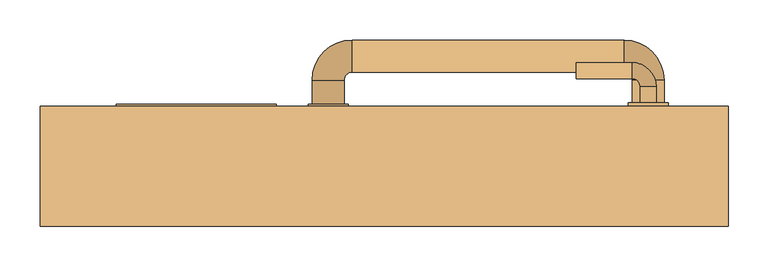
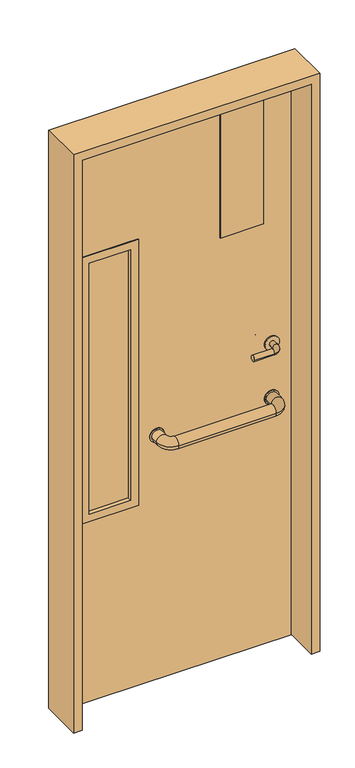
"""IFC4 building model written with IfcOpenShell, lengths in millimetres: door geometry, Porta area administrativa : Porta area administrativa."""

from ifc_helpers import new_model, si_unit, point, frame, frame_2d, origin, place, context, project, spatial, polyline, circle_curve, ellipse_curve, trimmed, segment, composite_curve, outline, extrude, faceted_brep, source, transform, mapped, element, save
from ifc_brep_helpers import plane_surface, cylinder_surface, revolved_surface, advanced_brep


def door_7c62873f(model_context):
    return source(origin(), model_context, "Body", "SolidModel", [
        extrude(outline(composite_curve([segment(trimmed(circle_curve(frame_2d((900.0, -70.0)), 25.0), [point((900.0, -95.0))], [point((900.0, -45.0))], False, "CARTESIAN"), True, "CONTINUOUS"), segment(trimmed(circle_curve(frame_2d((900.0, -70.0)), 25.0), [point((900.0, -45.0))], [point((900.0, -95.0))], False, "CARTESIAN"), True, "CONTINUOUS")], self_intersect=False)), frame((0.0, 75.0, 0.0), z_axis=(0.0, 1.0, 0.0), x_axis=(0.0, 0.0, 1.0)), (0.0, 0.0, 1.0), 3.0),
        extrude(outline(composite_curve([segment(trimmed(circle_curve(frame_2d((900.0, 330.0)), 25.0), [point((900.0, 305.0))], [point((900.0, 355.0))], False, "CARTESIAN"), True, "CONTINUOUS"), segment(trimmed(circle_curve(frame_2d((900.0, 330.0)), 25.0), [point((900.0, 355.0))], [point((900.0, 305.0))], False, "CARTESIAN"), True, "CONTINUOUS")], self_intersect=False)), frame((0.0, 75.0, 0.0), z_axis=(0.0, 1.0, 0.0), x_axis=(0.0, 0.0, 1.0)), (0.0, 0.0, 1.0), 3.0),
        advanced_brep(
        [(310.0, 78.0, 900.0), (350.0, 78.0, 900.0), (350.0, 108.0, 900.0), (310.0, 108.0, 900.0), (300.0, 158.0, 900.0), (300.0, 118.0, 900.0), (-40.0, 158.0, 900.0), (-40.0, 118.0, 900.0), (-90.0, 108.0, 900.0), (-50.0, 108.0, 900.0), (-50.0, 78.0, 900.0), (-90.0, 78.0, 900.0)],
        [
            (0, 1, circle_curve(frame((330.0, 78.0, 900.0), z_axis=(0.0, -1.0, 0.0), x_axis=(1.0, 0.0, 0.0)), 20.0)),
            (1, 0, circle_curve(frame((330.0, 78.0, 900.0), z_axis=(0.0, -1.0, 0.0), x_axis=(1.0, 0.0, 0.0)), 20.0)),
            (1, 2),
            (2, 3, circle_curve(frame((330.0, 108.0, 900.0), z_axis=(0.0, -1.0, 0.0), x_axis=(1.0, 0.0, 0.0)), 20.0)),
            (3, 0),
            (3, 2, circle_curve(frame((330.0, 108.0, 900.0), z_axis=(0.0, -1.0, 0.0), x_axis=(1.0, 0.0, 0.0)), 20.0)),
            (4, 5, circle_curve(frame((300.0, 138.0, 900.0), z_axis=(1.0, 0.0, 0.0), x_axis=(0.0, 1.0, 0.0)), 20.0)),
            (5, 3, circle_curve(frame((300.0, 108.0, 900.0), z_axis=(0.0, 0.0, -1.0), x_axis=(1.0, 0.0, 0.0)), 10.0)),
            (2, 4, circle_curve(frame((300.0, 108.0, 900.0), z_axis=(0.0, 0.0, 1.0), x_axis=(1.0, 0.0, 0.0)), 50.0)),
            (5, 4, circle_curve(frame((300.0, 138.0, 900.0), z_axis=(1.0, 0.0, 0.0), x_axis=(0.0, 1.0, 0.0)), 20.0)),
            (4, 6),
            (6, 7, circle_curve(frame((-40.0, 138.0, 900.0), z_axis=(1.0, 0.0, 0.0), x_axis=(0.0, 1.0, 0.0)), 20.0)),
            (7, 5),
            (7, 6, circle_curve(frame((-40.0, 138.0, 900.0), z_axis=(1.0, 0.0, 0.0), x_axis=(0.0, 1.0, 0.0)), 20.0)),
            (8, 9, circle_curve(frame((-70.0, 108.0, 900.0), z_axis=(0.0, 1.0, 0.0), x_axis=(-1.0, 0.0, 0.0)), 20.0)),
            (9, 7, circle_curve(frame((-40.0, 108.0, 900.0), z_axis=(0.0, 0.0, -1.0), x_axis=(0.0, 1.0, 0.0)), 10.0)),
            (6, 8, circle_curve(frame((-40.0, 108.0, 900.0), z_axis=(0.0, 0.0, 1.0), x_axis=(0.0, 1.0, 0.0)), 50.0)),
            (9, 8, circle_curve(frame((-70.0, 108.0, 900.0), z_axis=(0.0, 1.0, 0.0), x_axis=(-1.0, 0.0, 0.0)), 20.0)),
            (10, 11, circle_curve(frame((-70.0, 78.0, 900.0), z_axis=(0.0, -1.0, 0.0), x_axis=(-1.0, 0.0, 0.0)), 20.0)),
            (11, 10, circle_curve(frame((-70.0, 78.0, 900.0), z_axis=(0.0, -1.0, 0.0), x_axis=(-1.0, 0.0, 0.0)), 20.0)),
            (8, 11),
            (10, 9),
        ],
        [
            plane_surface(frame((330.0, 78.0, 900.0), z_axis=(0.0, -1.0, 0.0), x_axis=(0.0, 0.0, 1.0))),
            cylinder_surface(frame((330.0, 78.0, 900.0), z_axis=(0.0, -1.0, 0.0), x_axis=(1.0, 0.0, 0.0)), 20.0),
            revolved_surface(trimmed(ellipse_curve(frame((330.0, 108.0, 900.0), z_axis=(0.0, 1.0, 0.0), x_axis=(1.0, 0.0, 0.0)), 20.0, 20.0), [point((310.0, 108.0, 900.0))], [point((350.0, 108.0, 900.0))], True, "CARTESIAN"), (300.0, 108.0, 900.0), (0.0, 0.0, -1.0)),
            revolved_surface(trimmed(ellipse_curve(frame((330.0, 108.0, 900.0), z_axis=(0.0, 1.0, 0.0), x_axis=(1.0, 0.0, 0.0)), 20.0, 20.0), [point((350.0, 108.0, 900.0))], [point((310.0, 108.0, 900.0))], True, "CARTESIAN"), (300.0, 108.0, 900.0), (0.0, 0.0, -1.0)),
            cylinder_surface(frame((300.0, 138.0, 900.0), z_axis=(1.0, 0.0, 0.0), x_axis=(0.0, 1.0, 0.0)), 20.0),
            revolved_surface(trimmed(ellipse_curve(frame((-40.0, 138.0, 900.0), z_axis=(-1.0, 0.0, 0.0), x_axis=(0.0, 1.0, 0.0)), 20.0, 20.0), [point((-40.0, 118.0, 900.0))], [point((-40.0, 158.0, 900.0))], True, "CARTESIAN"), (-40.0, 108.0, 900.0), (0.0, 0.0, -1.0)),
            revolved_surface(trimmed(ellipse_curve(frame((-40.0, 138.0, 900.0), z_axis=(-1.0, 0.0, 0.0), x_axis=(0.0, 1.0, 0.0)), 20.0, 20.0), [point((-40.0, 158.0, 900.0))], [point((-40.0, 118.0, 900.0))], True, "CARTESIAN"), (-40.0, 108.0, 900.0), (0.0, 0.0, -1.0)),
            plane_surface(frame((-70.0, 78.0, 900.0), z_axis=(0.0, -1.0, 0.0), x_axis=(0.0, 0.0, 1.0))),
            cylinder_surface(frame((-70.0, 108.0, 900.0), z_axis=(0.0, 1.0, 0.0), x_axis=(-1.0, 0.0, 0.0)), 20.0),
        ],
        [
            (0, [[1, 2]]),
            (1, [[3, 4, 5, -2]]),
            (1, [[-5, 6, -3, -1]]),
            (2, [[7, 8, -4, 9]]),
            (3, [[10, -9, -6, -8]]),
            (4, [[11, 12, 13, -7]]),
            (4, [[-13, 14, -11, -10]]),
            (5, [[15, 16, -12, 17]]),
            (6, [[18, -17, -14, -16]]),
            (7, [[19, 20]]),
            (8, [[21, -19, 22, -15]]),
            (8, [[-22, -20, -21, -18]]),
        ],
    ),
        extrude(outline(composite_curve([segment(trimmed(circle_curve(frame_2d((900.0, -70.0)), 25.0), [point((900.0, -95.0))], [point((900.0, -45.0))], False, "CARTESIAN"), True, "CONTINUOUS"), segment(trimmed(circle_curve(frame_2d((900.0, -70.0)), 25.0), [point((900.0, -45.0))], [point((900.0, -95.0))], False, "CARTESIAN"), True, "CONTINUOUS")], self_intersect=False)), frame((0.0, 42.0, 0.0), z_axis=(0.0, 1.0, 0.0), x_axis=(0.0, 0.0, 1.0)), (0.0, 0.0, 1.0), 3.0),
        extrude(outline(composite_curve([segment(trimmed(circle_curve(frame_2d((900.0, 330.0)), 25.0), [point((900.0, 305.0))], [point((900.0, 355.0))], False, "CARTESIAN"), True, "CONTINUOUS"), segment(trimmed(circle_curve(frame_2d((900.0, 330.0)), 25.0), [point((900.0, 355.0))], [point((900.0, 305.0))], False, "CARTESIAN"), True, "CONTINUOUS")], self_intersect=False)), frame((0.0, 42.0, 0.0), z_axis=(0.0, 1.0, 0.0), x_axis=(0.0, 0.0, 1.0)), (0.0, 0.0, 1.0), 3.0),
        advanced_brep(
        [(310.0, 42.0, 900.0), (350.0, 42.0, 900.0), (310.0, 12.0, 900.0), (350.0, 12.0, 900.0), (300.0, -38.0, 900.0), (300.0, 2.0, 900.0), (-40.0, 2.0, 900.0), (-40.0, -38.0, 900.0), (-90.0, 12.0, 900.0), (-50.0, 12.0, 900.0), (-50.0, 42.0, 900.0), (-90.0, 42.0, 900.0)],
        [
            (0, 1, circle_curve(frame((330.0, 42.0, 900.0), z_axis=(0.0, 1.0, 0.0), x_axis=(1.0, 0.0, 0.0)), 20.0)),
            (1, 0, circle_curve(frame((330.0, 42.0, 900.0), z_axis=(0.0, 1.0, 0.0), x_axis=(1.0, 0.0, 0.0)), 20.0)),
            (0, 2),
            (2, 3, circle_curve(frame((330.0, 12.0, 900.0), z_axis=(0.0, 1.0, 0.0), x_axis=(1.0, 0.0, 0.0)), 20.0)),
            (3, 1),
            (3, 2, circle_curve(frame((330.0, 12.0, 900.0), z_axis=(0.0, 1.0, 0.0), x_axis=(1.0, 0.0, 0.0)), 20.0)),
            (4, 3, circle_curve(frame((300.0, 12.0, 900.0), z_axis=(0.0, 0.0, 1.0), x_axis=(1.0, 0.0, 0.0)), 50.0)),
            (2, 5, circle_curve(frame((300.0, 12.0, 900.0), z_axis=(0.0, 0.0, -1.0), x_axis=(1.0, 0.0, 0.0)), 10.0)),
            (5, 4, circle_curve(frame((300.0, -18.0, 900.0), z_axis=(1.0, 0.0, 0.0), x_axis=(0.0, -1.0, 0.0)), 20.0)),
            (4, 5, circle_curve(frame((300.0, -18.0, 900.0), z_axis=(1.0, 0.0, 0.0), x_axis=(0.0, -1.0, 0.0)), 20.0)),
            (5, 6),
            (6, 7, circle_curve(frame((-40.0, -18.0, 900.0), z_axis=(1.0, 0.0, 0.0), x_axis=(0.0, -1.0, 0.0)), 20.0)),
            (7, 4),
            (7, 6, circle_curve(frame((-40.0, -18.0, 900.0), z_axis=(1.0, 0.0, 0.0), x_axis=(0.0, -1.0, 0.0)), 20.0)),
            (8, 7, circle_curve(frame((-40.0, 12.0, 900.0), z_axis=(0.0, 0.0, 1.0), x_axis=(0.0, -1.0, 0.0)), 50.0)),
            (6, 9, circle_curve(frame((-40.0, 12.0, 900.0), z_axis=(0.0, 0.0, -1.0), x_axis=(0.0, -1.0, 0.0)), 10.0)),
            (9, 8, circle_curve(frame((-70.0, 12.0, 900.0), z_axis=(0.0, -1.0, 0.0), x_axis=(-1.0, 0.0, 0.0)), 20.0)),
            (8, 9, circle_curve(frame((-70.0, 12.0, 900.0), z_axis=(0.0, -1.0, 0.0), x_axis=(-1.0, 0.0, 0.0)), 20.0)),
            (10, 11, circle_curve(frame((-70.0, 42.0, 900.0), z_axis=(0.0, 1.0, 0.0), x_axis=(-1.0, 0.0, 0.0)), 20.0)),
            (11, 10, circle_curve(frame((-70.0, 42.0, 900.0), z_axis=(0.0, 1.0, 0.0), x_axis=(-1.0, 0.0, 0.0)), 20.0)),
            (9, 10),
            (11, 8),
        ],
        [
            plane_surface(frame((330.0, 42.0, 900.0), z_axis=(0.0, 1.0, 0.0), x_axis=(0.0, 0.0, 1.0))),
            cylinder_surface(frame((330.0, 42.0, 900.0), z_axis=(0.0, 1.0, 0.0), x_axis=(1.0, 0.0, 0.0)), 20.0),
            revolved_surface(trimmed(ellipse_curve(frame((330.0, 12.0, 900.0), z_axis=(0.0, 1.0, 0.0), x_axis=(1.0, 0.0, 0.0)), 20.0, 20.0), [point((310.0, 12.0, 900.0))], [point((350.0, 12.0, 900.0))], True, "CARTESIAN"), (300.0, 12.0, 900.0), (0.0, 0.0, -1.0)),
            revolved_surface(trimmed(ellipse_curve(frame((330.0, 12.0, 900.0), z_axis=(0.0, 1.0, 0.0), x_axis=(1.0, 0.0, 0.0)), 20.0, 20.0), [point((350.0, 12.0, 900.0))], [point((310.0, 12.0, 900.0))], True, "CARTESIAN"), (300.0, 12.0, 900.0), (0.0, 0.0, -1.0)),
            cylinder_surface(frame((300.0, -18.0, 900.0), z_axis=(1.0, 0.0, 0.0), x_axis=(0.0, -1.0, 0.0)), 20.0),
            revolved_surface(trimmed(ellipse_curve(frame((-40.0, -18.0, 900.0), z_axis=(1.0, 0.0, 0.0), x_axis=(0.0, -1.0, 0.0)), 20.0, 20.0), [point((-40.0, 2.0, 900.0))], [point((-40.0, -38.0, 900.0))], True, "CARTESIAN"), (-40.0, 12.0, 900.0), (0.0, 0.0, -1.0)),
            revolved_surface(trimmed(ellipse_curve(frame((-40.0, -18.0, 900.0), z_axis=(1.0, 0.0, 0.0), x_axis=(0.0, -1.0, 0.0)), 20.0, 20.0), [point((-40.0, -38.0, 900.0))], [point((-40.0, 2.0, 900.0))], True, "CARTESIAN"), (-40.0, 12.0, 900.0), (0.0, 0.0, -1.0)),
            plane_surface(frame((-70.0, 42.0, 900.0), z_axis=(0.0, 1.0, 0.0), x_axis=(0.0, 0.0, 1.0))),
            cylinder_surface(frame((-70.0, 12.0, 900.0), z_axis=(0.0, -1.0, 0.0), x_axis=(-1.0, 0.0, 0.0)), 20.0),
        ],
        [
            (0, [[1, 2]]),
            (1, [[-1, 3, 4, 5]]),
            (1, [[-2, -5, 6, -3]]),
            (2, [[7, -4, 8, 9]]),
            (3, [[-8, -6, -7, 10]]),
            (4, [[-9, 11, 12, 13]]),
            (4, [[-10, -13, 14, -11]]),
            (5, [[15, -12, 16, 17]]),
            (6, [[-16, -14, -15, 18]]),
            (7, [[19, 20]]),
            (8, [[-17, 21, -20, 22]]),
            (8, [[-18, -22, -19, -21]]),
        ],
    ),
        extrude(outline(composite_curve([segment(trimmed(circle_curve(frame_2d((1100.0, 330.0)), 25.0), [point((1100.0, 305.0))], [point((1100.0, 355.0))], False, "CARTESIAN"), True, "CONTINUOUS"), segment(trimmed(circle_curve(frame_2d((1100.0, 330.0)), 25.0), [point((1100.0, 355.0))], [point((1100.0, 305.0))], False, "CARTESIAN"), True, "CONTINUOUS")], self_intersect=False)), frame((0.0, 75.0, 0.0), z_axis=(0.0, 1.0, 0.0), x_axis=(0.0, 0.0, 1.0)), (0.0, 0.0, 1.0), 5.0),
        advanced_brep(
        [(320.0, 80.0, 1100.0), (340.0, 80.0, 1100.0), (340.0, 100.0, 1100.0), (320.0, 100.0, 1100.0), (310.0, 130.0, 1100.0), (310.0, 110.0, 1100.0), (240.0, 110.0, 1100.0), (240.0, 130.0, 1100.0)],
        [
            (0, 1, circle_curve(frame((330.0, 80.0, 1100.0), z_axis=(0.0, -1.0, 0.0), x_axis=(1.0, 0.0, 0.0)), 10.0)),
            (1, 0, circle_curve(frame((330.0, 80.0, 1100.0), z_axis=(0.0, -1.0, 0.0), x_axis=(1.0, 0.0, 0.0)), 10.0)),
            (1, 2),
            (2, 3, circle_curve(frame((330.0, 100.0, 1100.0), z_axis=(0.0, -1.0, 0.0), x_axis=(1.0, 0.0, 0.0)), 10.0)),
            (3, 0),
            (3, 2, circle_curve(frame((330.0, 100.0, 1100.0), z_axis=(0.0, -1.0, 0.0), x_axis=(1.0, 0.0, 0.0)), 10.0)),
            (4, 5, circle_curve(frame((310.0, 120.0, 1100.0), z_axis=(1.0, 0.0, 0.0), x_axis=(0.0, 1.0, 0.0)), 10.0)),
            (5, 3, circle_curve(frame((310.0, 100.0, 1100.0), z_axis=(0.0, 0.0, -1.0), x_axis=(1.0, 0.0, 0.0)), 10.0)),
            (2, 4, circle_curve(frame((310.0, 100.0, 1100.0), z_axis=(0.0, 0.0, 1.0), x_axis=(1.0, 0.0, 0.0)), 30.0)),
            (5, 4, circle_curve(frame((310.0, 120.0, 1100.0), z_axis=(1.0, 0.0, 0.0), x_axis=(0.0, 1.0, 0.0)), 10.0)),
            (6, 7, circle_curve(frame((240.0, 120.0, 1100.0), z_axis=(-1.0, 0.0, 0.0), x_axis=(0.0, 1.0, 0.0)), 10.0)),
            (7, 6, circle_curve(frame((240.0, 120.0, 1100.0), z_axis=(-1.0, 0.0, 0.0), x_axis=(0.0, 1.0, 0.0)), 10.0)),
            (4, 7),
            (6, 5),
        ],
        [
            plane_surface(frame((330.0, 80.0, 1100.0), z_axis=(0.0, -1.0, 0.0), x_axis=(0.0, 0.0, 1.0))),
            cylinder_surface(frame((330.0, 80.0, 1100.0), z_axis=(0.0, -1.0, 0.0), x_axis=(1.0, 0.0, 0.0)), 10.0),
            revolved_surface(trimmed(ellipse_curve(frame((330.0, 100.0, 1100.0), z_axis=(0.0, 1.0, 0.0), x_axis=(1.0, 0.0, 0.0)), 10.0, 10.0), [point((320.0, 100.0, 1100.0))], [point((340.0, 100.0, 1100.0))], True, "CARTESIAN"), (310.0, 100.0, 1100.0), (0.0, 0.0, -1.0)),
            revolved_surface(trimmed(ellipse_curve(frame((330.0, 100.0, 1100.0), z_axis=(0.0, 1.0, 0.0), x_axis=(1.0, 0.0, 0.0)), 10.0, 10.0), [point((340.0, 100.0, 1100.0))], [point((320.0, 100.0, 1100.0))], True, "CARTESIAN"), (310.0, 100.0, 1100.0), (0.0, 0.0, -1.0)),
            plane_surface(frame((240.0, 120.0, 1100.0), z_axis=(-1.0, 0.0, 0.0), x_axis=(0.0, 0.0, 1.0))),
            cylinder_surface(frame((310.0, 120.0, 1100.0), z_axis=(1.0, 0.0, 0.0), x_axis=(0.0, 1.0, 0.0)), 10.0),
        ],
        [
            (0, [[1, 2]]),
            (1, [[3, 4, 5, -2]]),
            (1, [[-5, 6, -3, -1]]),
            (2, [[7, 8, -4, 9]]),
            (3, [[10, -9, -6, -8]]),
            (4, [[11, 12]]),
            (5, [[13, -11, 14, -7]]),
            (5, [[-14, -12, -13, -10]]),
        ],
    ),
        extrude(outline(composite_curve([segment(trimmed(circle_curve(frame_2d((1100.0, 330.0)), 25.0), [point((1100.0, 305.0))], [point((1100.0, 355.0))], False, "CARTESIAN"), True, "CONTINUOUS"), segment(trimmed(circle_curve(frame_2d((1100.0, 330.0)), 25.0), [point((1100.0, 355.0))], [point((1100.0, 305.0))], False, "CARTESIAN"), True, "CONTINUOUS")], self_intersect=False)), frame((0.0, 40.0, 0.0), z_axis=(0.0, 1.0, 0.0), x_axis=(0.0, 0.0, 1.0)), (0.0, 0.0, 1.0), 5.0),
        advanced_brep(
        [(320.0, 40.0, 1100.0), (340.0, 40.0, 1100.0), (320.0, 20.0, 1100.0), (340.0, 20.0, 1100.0), (310.0, -10.0, 1100.0), (310.0, 10.0, 1100.0), (240.0, 10.0, 1100.0), (240.0, -10.0, 1100.0)],
        [
            (0, 1, circle_curve(frame((330.0, 40.0, 1100.0), z_axis=(0.0, 1.0, 0.0), x_axis=(1.0, 0.0, 0.0)), 10.0)),
            (1, 0, circle_curve(frame((330.0, 40.0, 1100.0), z_axis=(0.0, 1.0, 0.0), x_axis=(1.0, 0.0, 0.0)), 10.0)),
            (0, 2),
            (2, 3, circle_curve(frame((330.0, 20.0, 1100.0), z_axis=(0.0, 1.0, 0.0), x_axis=(1.0, 0.0, 0.0)), 10.0)),
            (3, 1),
            (3, 2, circle_curve(frame((330.0, 20.0, 1100.0), z_axis=(0.0, 1.0, 0.0), x_axis=(1.0, 0.0, 0.0)), 10.0)),
            (4, 3, circle_curve(frame((310.0, 20.0, 1100.0), z_axis=(0.0, 0.0, 1.0), x_axis=(1.0, 0.0, 0.0)), 30.0)),
            (2, 5, circle_curve(frame((310.0, 20.0, 1100.0), z_axis=(0.0, 0.0, -1.0), x_axis=(1.0, 0.0, 0.0)), 10.0)),
            (5, 4, circle_curve(frame((310.0, 0.0, 1100.0), z_axis=(1.0, 0.0, 0.0), x_axis=(0.0, -1.0, 0.0)), 10.0)),
            (4, 5, circle_curve(frame((310.0, 0.0, 1100.0), z_axis=(1.0, 0.0, 0.0), x_axis=(0.0, -1.0, 0.0)), 10.0)),
            (6, 7, circle_curve(frame((240.0, 0.0, 1100.0), z_axis=(-1.0, 0.0, 0.0), x_axis=(0.0, -1.0, 0.0)), 10.0)),
            (7, 6, circle_curve(frame((240.0, 0.0, 1100.0), z_axis=(-1.0, 0.0, 0.0), x_axis=(0.0, -1.0, 0.0)), 10.0)),
            (5, 6),
            (7, 4),
        ],
        [
            plane_surface(frame((330.0, 40.0, 1100.0), z_axis=(0.0, 1.0, 0.0), x_axis=(0.0, 0.0, 1.0))),
            cylinder_surface(frame((330.0, 40.0, 1100.0), z_axis=(0.0, 1.0, 0.0), x_axis=(1.0, 0.0, 0.0)), 10.0),
            revolved_surface(trimmed(ellipse_curve(frame((330.0, 20.0, 1100.0), z_axis=(0.0, 1.0, 0.0), x_axis=(1.0, 0.0, 0.0)), 10.0, 10.0), [point((320.0, 20.0, 1100.0))], [point((340.0, 20.0, 1100.0))], True, "CARTESIAN"), (310.0, 20.0, 1100.0), (0.0, 0.0, -1.0)),
            revolved_surface(trimmed(ellipse_curve(frame((330.0, 20.0, 1100.0), z_axis=(0.0, 1.0, 0.0), x_axis=(1.0, 0.0, 0.0)), 10.0, 10.0), [point((340.0, 20.0, 1100.0))], [point((320.0, 20.0, 1100.0))], True, "CARTESIAN"), (310.0, 20.0, 1100.0), (0.0, 0.0, -1.0)),
            plane_surface(frame((240.0, 0.0, 1100.0), z_axis=(-1.0, 0.0, 0.0), x_axis=(0.0, 0.0, 1.0))),
            cylinder_surface(frame((310.0, 0.0, 1100.0), z_axis=(1.0, 0.0, 0.0), x_axis=(0.0, -1.0, 0.0)), 10.0),
        ],
        [
            (0, [[1, 2]]),
            (1, [[-1, 3, 4, 5]]),
            (1, [[-2, -5, 6, -3]]),
            (2, [[7, -4, 8, 9]]),
            (3, [[-8, -6, -7, 10]]),
            (4, [[11, 12]]),
            (5, [[-9, 13, -12, 14]]),
            (5, [[-10, -14, -11, -13]]),
        ],
    ),
        faceted_brep([(-430.0, -75.0, 0.0), (-430.0, 75.0, 0.0), (-410.0, 75.0, 0.0), (-410.0, 45.0, 0.0), (-400.0, 45.0, 0.0), (-400.0, -75.0, 0.0), (-400.0, -75.0, 2100.0), (400.0, -75.0, 2100.0), (400.0, -75.0, 0.0), (430.0, -75.0, 0.0), (430.0, -75.0, 2130.0), (-430.0, -75.0, 2130.0), (-400.0, 45.0, 2100.0), (-410.0, 45.0, 2110.0), (410.0, 45.0, 2110.0), (410.0, 45.0, 0.0), (400.0, 45.0, 0.0), (400.0, 45.0, 2100.0), (-410.0, 75.0, 2110.0), (-430.0, 75.0, 2130.0), (430.0, 75.0, 2130.0), (430.0, 75.0, 0.0), (410.0, 75.0, 0.0), (410.0, 75.0, 2110.0)], [[[0, 1, 2, 3, 4, 5]], [[5, 6, 7, 8, 9, 10, 11, 0]], [[4, 12, 6, 5]], [[3, 13, 14, 15, 16, 17, 12, 4]], [[2, 18, 13, 3]], [[1, 19, 20, 21, 22, 23, 18, 2]], [[0, 11, 19, 1]], [[17, 16, 8, 7]], [[9, 8, 16, 15, 22, 21]], [[23, 22, 15, 14]], [[10, 9, 21, 20]], [[12, 17, 7, 6]], [[18, 23, 14, 13]], [[11, 10, 20, 19]]]),
        extrude(outline(polyline([(-163.0, 63.4643825), (-163.0, 56.5356175), (-307.0, 56.5356175), (-307.0, 63.4643825), (-163.0, 63.4643825)])), frame((0.0, 0.0, 693.0), z_axis=(0.0, 0.0, 1.0), x_axis=(1.0, 0.0, 0.0)), (0.0, 0.0, 1.0), 924.0),
        faceted_brep([(-335.0, 42.0, 1645.0), (-135.0, 42.0, 1645.0), (-135.0, 45.0, 1645.0), (-335.0, 45.0, 1645.0), (-307.0, 78.0, 1617.0), (-163.0, 78.0, 1617.0), (-163.0, 42.0, 1617.0), (-307.0, 42.0, 1617.0), (-335.0, 75.0, 1645.0), (-135.0, 75.0, 1645.0), (-135.0, 78.0, 1645.0), (-335.0, 78.0, 1645.0), (-310.0, 45.0, 1620.0), (-160.0, 45.0, 1620.0), (-160.0, 75.0, 1620.0), (-310.0, 75.0, 1620.0), (-135.0, 42.0, 665.0), (-135.0, 45.0, 665.0), (-163.0, 78.0, 693.0), (-163.0, 42.0, 693.0), (-135.0, 75.0, 665.0), (-135.0, 78.0, 665.0), (-160.0, 45.0, 690.0), (-160.0, 75.0, 690.0), (-335.0, 42.0, 665.0), (-335.0, 45.0, 665.0), (-307.0, 78.0, 693.0), (-307.0, 42.0, 693.0), (-335.0, 75.0, 665.0), (-335.0, 78.0, 665.0), (-310.0, 45.0, 690.0), (-310.0, 75.0, 690.0)], [[[0, 1, 2, 3]], [[4, 5, 6, 7]], [[8, 9, 10, 11]], [[12, 13, 14, 15]], [[1, 16, 17, 2]], [[5, 18, 19, 6]], [[9, 20, 21, 10]], [[13, 22, 23, 14]], [[16, 24, 25, 17]], [[18, 26, 27, 19]], [[20, 28, 29, 21]], [[22, 30, 31, 23]], [[3, 2, 17, 25], [13, 12, 30, 22]], [[24, 0, 3, 25]], [[1, 0, 24, 16], [7, 6, 19, 27]], [[26, 4, 7, 27]], [[11, 10, 21, 29], [5, 4, 26, 18]], [[28, 8, 11, 29]], [[9, 8, 28, 20], [15, 14, 23, 31]], [[30, 12, 15, 31]]]),
        extrude(outline(polyline([(0.0, 410.0), (2110.0, 410.0), (2110.0, -410.0), (0.0, -410.0), (0.0, 410.0)]), holes=[polyline([(690.0, -160.0), (690.0, -310.0), (1620.0, -310.0), (1620.0, -160.0), (690.0, -160.0)])]), frame((0.0, 45.0, 0.0), z_axis=(0.0, 1.0, 0.0), x_axis=(0.0, 0.0, 1.0)), (0.0, 0.0, 1.0), 30.0),
        extrude(outline(polyline([(150.0, 42.0), (150.0, 45.0), (300.0, 45.0), (300.0, 42.0), (150.0, 42.0)])), frame((0.0, 0.0, 1550.0), z_axis=(0.0, 0.0, 1.0), x_axis=(1.0, 0.0, 0.0)), (0.0, 0.0, 1.0), 550.0),
    ])


if __name__ == "__main__":
    model = new_model("IFC4")
    model_context = context("Model", 3, world=origin())
    ifc_project = project(units=[si_unit("LENGTHUNIT", "METRE", prefix="MILLI")], contexts=[model_context])
    site = spatial("IfcSite", under=ifc_project)
    building = spatial("IfcBuilding", under=site)
    placement = place(None, origin())
    door_shape = door_7c62873f(model_context)
    element("IfcDoor", 1, ObjectType="Porta area administrativa : Porta area administrativa", at=placement, inside=building, context=model_context, shape_type="MappedRepresentation", body=[
        mapped(door_shape, transform((0.0, 0.0, 0.0), x_axis=(1.0, 0.0, 0.0), y_axis=(0.0, 1.0, 0.0), z_axis=(0.0, 0.0, 1.0))),
    ])
    save(model, "model.ifc")
